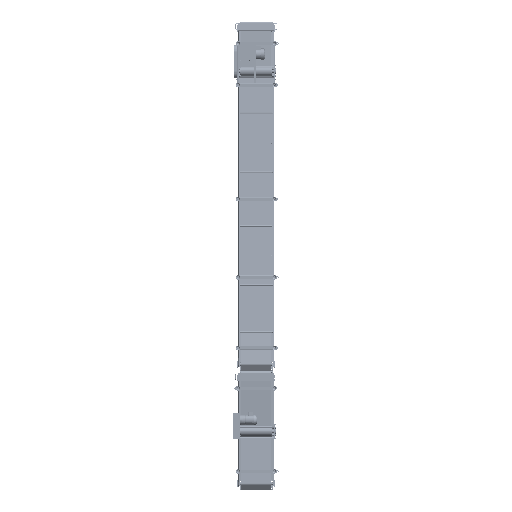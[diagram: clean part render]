
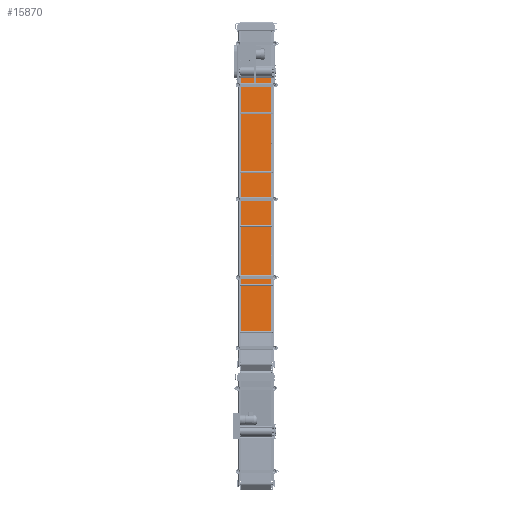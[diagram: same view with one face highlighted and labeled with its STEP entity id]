
A CAD part, front view. The second image highlights one B-rep face of the part: STEP entity #15870.
In plain terms, the highlighted planar face has unit normal (0, -0.993, 0.12) as drawn and (0.12, -0.993, 0) by its records, which use the part's own axes.
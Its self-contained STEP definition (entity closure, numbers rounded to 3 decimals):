
#11723=PLANE('',#103922);
#15870=ADVANCED_FACE('',(#23107),#11723,.F.);
#23107=FACE_OUTER_BOUND('',#28347,.T.);
#28347=EDGE_LOOP('',(#53821,#53822,#53823,#53824));
#34193=LINE('',#156817,#40396);
#34208=LINE('',#156871,#40411);
#34229=LINE('',#156933,#40432);
#34230=LINE('',#156935,#40433);
#40396=VECTOR('',#118668,1.);
#40411=VECTOR('',#118715,1.);
#40432=VECTOR('',#118778,1.);
#40433=VECTOR('',#118781,1.);
#53821=ORIENTED_EDGE('',*,*,#86849,.T.);
#53822=ORIENTED_EDGE('',*,*,#86883,.F.);
#53823=ORIENTED_EDGE('',*,*,#86819,.F.);
#53824=ORIENTED_EDGE('',*,*,#86882,.T.);
#75886=VERTEX_POINT('',#156816);
#75887=VERTEX_POINT('',#156818);
#75909=VERTEX_POINT('',#156870);
#75910=VERTEX_POINT('',#156872);
#86819=EDGE_CURVE('',#75886,#75887,#34193,.T.);
#86849=EDGE_CURVE('',#75910,#75909,#34208,.T.);
#86882=EDGE_CURVE('',#75886,#75910,#34229,.T.);
#86883=EDGE_CURVE('',#75887,#75909,#34230,.T.);
#103922=AXIS2_PLACEMENT_3D('',#156936,#118782,#118783);
#118668=DIRECTION('',(0.993,0.12,0.));
#118715=DIRECTION('',(0.993,0.12,0.));
#118778=DIRECTION('',(0.,0.,-1.));
#118781=DIRECTION('',(0.,0.,-1.));
#118782=DIRECTION('',(-0.12,0.993,0.));
#118783=DIRECTION('',(0.993,0.12,0.));
#156816=CARTESIAN_POINT('',(-5125.857,-593.091,250.));
#156817=CARTESIAN_POINT('',(-5125.857,-593.091,250.));
#156818=CARTESIAN_POINT('',(-807.213,-71.876,250.));
#156870=CARTESIAN_POINT('',(-807.213,-71.876,-250.));
#156871=CARTESIAN_POINT('',(-5125.857,-593.091,-250.));
#156872=CARTESIAN_POINT('',(-5125.857,-593.091,-250.));
#156933=CARTESIAN_POINT('',(-5125.857,-593.091,250.));
#156935=CARTESIAN_POINT('',(-807.213,-71.876,250.));
#156936=CARTESIAN_POINT('',(-5125.857,-593.091,250.));
